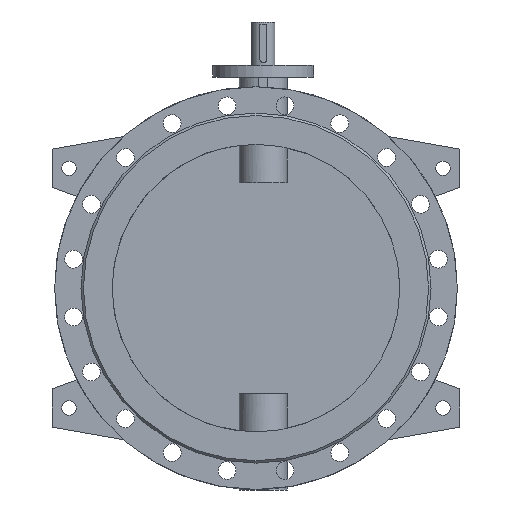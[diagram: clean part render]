
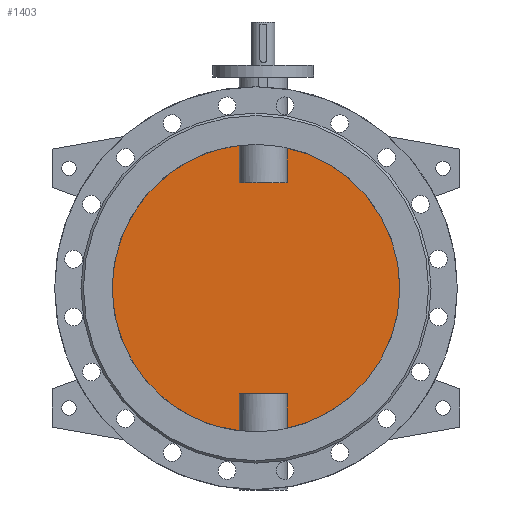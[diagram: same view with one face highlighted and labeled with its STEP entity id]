
A CAD part, front view. The second image highlights one B-rep face of the part: STEP entity #1403.
In plain terms, the highlighted planar face has unit normal (0, -1, 0).
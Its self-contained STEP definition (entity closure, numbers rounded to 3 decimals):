
#1403=ADVANCED_FACE('',(#2957),#2959,.F.);
#2957=FACE_BOUND('',#2958,.T.);
#2958=EDGE_LOOP('',(#3785,#3786,#3787,#3788,#3789,#3790,#3791,#3792));
#2959=PLANE('',#2960);
#2960=AXIS2_PLACEMENT_3D('',#2961,#2962,#2963);
#2961=CARTESIAN_POINT('',(0.,-5.,0.));
#2962=DIRECTION('',(0.,1.,0.));
#2963=DIRECTION('',(1.,0.,0.));
#3785=ORIENTED_EDGE('',*,*,#4199,.T.);
#3786=ORIENTED_EDGE('',*,*,#4215,.T.);
#3787=ORIENTED_EDGE('',*,*,#4216,.T.);
#3788=ORIENTED_EDGE('',*,*,#4217,.T.);
#3789=ORIENTED_EDGE('',*,*,#4201,.T.);
#3790=ORIENTED_EDGE('',*,*,#4218,.T.);
#3791=ORIENTED_EDGE('',*,*,#4219,.T.);
#3792=ORIENTED_EDGE('',*,*,#4220,.T.);
#4199=EDGE_CURVE('',#4863,#4864,#4865,.F.);
#4201=EDGE_CURVE('',#4868,#4866,#4869,.F.);
#4215=EDGE_CURVE('',#4864,#4895,#4896,.T.);
#4216=EDGE_CURVE('',#4895,#4897,#4898,.F.);
#4217=EDGE_CURVE('',#4897,#4868,#4899,.F.);
#4218=EDGE_CURVE('',#4866,#4900,#4901,.F.);
#4219=EDGE_CURVE('',#4900,#4902,#4903,.F.);
#4220=EDGE_CURVE('',#4902,#4863,#4904,.T.);
#4863=VERTEX_POINT('',#7026);
#4864=VERTEX_POINT('',#7027);
#4865=CIRCLE('',#7028,300.);
#4866=VERTEX_POINT('',#7032);
#4868=VERTEX_POINT('',#7119);
#4869=CIRCLE('',#7120,300.);
#4895=VERTEX_POINT('',#7518);
#4896=LINE('',#7519,#7520);
#4897=VERTEX_POINT('',#7522);
#4898=LINE('',#7523,#7524);
#4899=LINE('',#7526,#7527);
#4900=VERTEX_POINT('',#7529);
#4901=LINE('',#7530,#7531);
#4902=VERTEX_POINT('',#7533);
#4903=LINE('',#7534,#7535);
#4904=LINE('',#7537,#7538);
#7026=CARTESIAN_POINT('',(64.749,-5.,-292.929));
#7027=CARTESIAN_POINT('',(64.749,-5.,292.929));
#7028=AXIS2_PLACEMENT_3D('',#7029,#7030,#7031);
#7029=CARTESIAN_POINT('',(0.,-5.,0.));
#7030=DIRECTION('',(0.,1.,0.));
#7031=DIRECTION('',(0.216,0.,0.976));
#7032=CARTESIAN_POINT('',(-34.749,-5.,-297.981));
#7119=CARTESIAN_POINT('',(-34.749,-5.,297.981));
#7120=AXIS2_PLACEMENT_3D('',#7121,#7122,#7123);
#7121=CARTESIAN_POINT('',(0.,-5.,0.));
#7122=DIRECTION('',(0.,1.,0.));
#7123=DIRECTION('',(-0.116,0.,-0.993));
#7518=CARTESIAN_POINT('',(64.749,-5.,220.));
#7519=CARTESIAN_POINT('',(64.749,-5.,292.929));
#7520=VECTOR('',#7521,1.);
#7521=DIRECTION('',(0.,0.,-1.));
#7522=CARTESIAN_POINT('',(-34.749,-5.,220.));
#7523=CARTESIAN_POINT('',(-34.749,-5.,220.));
#7524=VECTOR('',#7525,1.);
#7525=DIRECTION('',(1.,0.,0.));
#7526=CARTESIAN_POINT('',(-34.749,-5.,297.981));
#7527=VECTOR('',#7528,1.);
#7528=DIRECTION('',(0.,0.,-1.));
#7529=CARTESIAN_POINT('',(-34.749,-5.,-220.));
#7530=CARTESIAN_POINT('',(-34.749,-5.,-220.));
#7531=VECTOR('',#7532,1.);
#7532=DIRECTION('',(0.,0.,-1.));
#7533=CARTESIAN_POINT('',(64.749,-5.,-220.));
#7534=CARTESIAN_POINT('',(64.749,-5.,-220.));
#7535=VECTOR('',#7536,1.);
#7536=DIRECTION('',(-1.,0.,0.));
#7537=CARTESIAN_POINT('',(64.749,-5.,-220.));
#7538=VECTOR('',#7539,1.);
#7539=DIRECTION('',(0.,0.,-1.));
